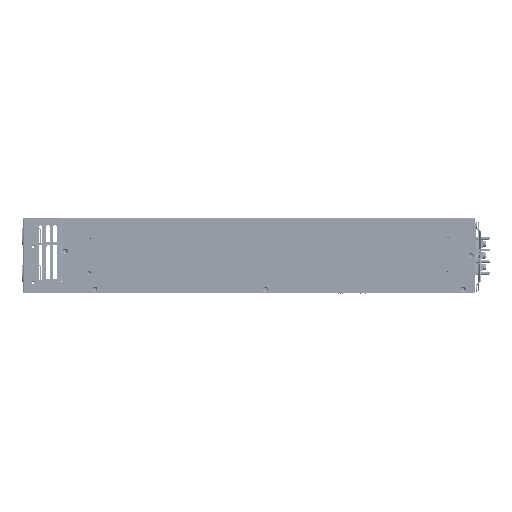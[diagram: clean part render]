
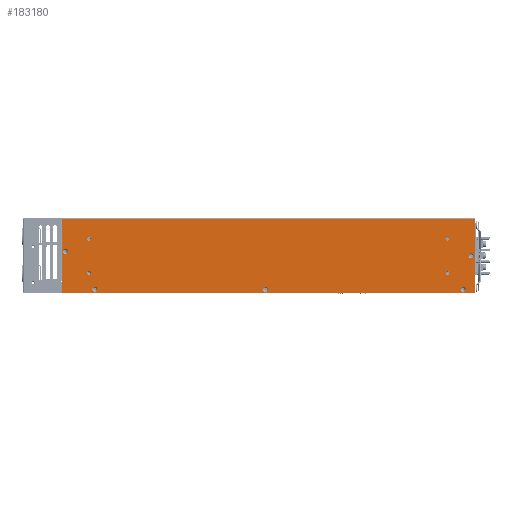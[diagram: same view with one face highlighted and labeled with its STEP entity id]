
A CAD part, front view. The second image highlights one B-rep face of the part: STEP entity #183180.
In plain terms, the highlighted planar face has unit normal (0, -1, 0).
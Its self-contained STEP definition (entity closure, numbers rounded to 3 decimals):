
#180650=CARTESIAN_POINT('',(-2155.796,-306.029,4.5));
#180660=VERTEX_POINT('',#180650);
#180690=CARTESIAN_POINT('',(-1697.296,-306.029,4.5));
#180700=DIRECTION('',(-1.,0.,0.));
#180710=VECTOR('',#180700,1.);
#180720=LINE('',#180690,#180710);
#180730=CARTESIAN_POINT('',(-1697.296,-306.029,4.5));
#180740=VERTEX_POINT('',#180730);
#180750=EDGE_CURVE('',#180740,#180660,#180720,.T.);
#181140=CARTESIAN_POINT('',(-2155.796,-306.029,86.9));
#181150=VERTEX_POINT('',#181140);
#181180=CARTESIAN_POINT('',(-2155.796,-306.029,0.));
#181190=DIRECTION('',(0.,0.,1.));
#181200=VECTOR('',#181190,1.);
#181210=LINE('',#181180,#181200);
#181220=EDGE_CURVE('',#180660,#181150,#181210,.T.);
#181510=CARTESIAN_POINT('',(-1726.896,-306.029,66.95));
#181520=DIRECTION('',(0.,-1.,0.));
#181530=DIRECTION('',(0.,0.,-1.));
#181540=AXIS2_PLACEMENT_3D('',#181510,#181520,#181530);
#181550=PLANE('',#181540);
#181560=CARTESIAN_POINT('',(-1929.296,-306.029,
9.));
#181570=DIRECTION('',(0.,1.,0.));
#181580=DIRECTION('',(1.,0.,0.));
#181590=AXIS2_PLACEMENT_3D('',#181560,#181570,#181580);
#181600=CIRCLE('',#181590,2.85);
#181610=CARTESIAN_POINT('',(-1926.446,-306.029,
9.));
#181620=VERTEX_POINT('',#181610);
#181630=CARTESIAN_POINT('',(-1932.146,-306.029,
9.));
#181640=VERTEX_POINT('',#181630);
#181650=EDGE_CURVE('',#181620,#181640,#181600,.T.);
#181660=ORIENTED_EDGE('',*,*,#181650,.T.);
#181670=EDGE_CURVE('',#181640,#181620,#181600,.T.);
#181680=ORIENTED_EDGE('',*,*,#181670,.T.);
#181690=EDGE_LOOP('',(#181680,#181660));
#181700=FACE_BOUND('',#181690,.T.);
#181710=CARTESIAN_POINT('',(-2152.503,-306.029,
51.32));
#181720=DIRECTION('',(0.,-1.,0.));
#181730=DIRECTION('',(-1.,0.,0.));
#181740=AXIS2_PLACEMENT_3D('',#181710,#181720,#181730);
#181750=CIRCLE('',#181740,3.);
#181760=CARTESIAN_POINT('',(-2149.503,-306.029,
51.32));
#181770=VERTEX_POINT('',#181760);
#181780=CARTESIAN_POINT('',(-2155.503,-306.029,
51.32));
#181790=VERTEX_POINT('',#181780);
#181800=EDGE_CURVE('',#181770,#181790,#181750,.T.);
#181810=ORIENTED_EDGE('',*,*,#181800,.F.);
#181820=EDGE_CURVE('',#181790,#181770,#181750,.T.);
#181830=ORIENTED_EDGE('',*,*,#181820,.F.);
#181840=EDGE_LOOP('',(#181830,#181810));
#181850=FACE_BOUND('',#181840,.T.);
#181860=CARTESIAN_POINT('',(-2119.546,-306.029,
9.));
#181870=DIRECTION('',(0.,1.,0.));
#181880=DIRECTION('',(1.,0.,0.));
#181890=AXIS2_PLACEMENT_3D('',#181860,#181870,#181880);
#181900=CIRCLE('',#181890,2.85);
#181910=CARTESIAN_POINT('',(-2122.396,-306.029,
9.));
#181920=VERTEX_POINT('',#181910);
#181930=CARTESIAN_POINT('',(-2116.696,-306.029,
9.));
#181940=VERTEX_POINT('',#181930);
#181950=EDGE_CURVE('',#181920,#181940,#181900,.T.);
#181960=ORIENTED_EDGE('',*,*,#181950,.T.);
#181970=EDGE_CURVE('',#181940,#181920,#181900,.T.);
#181980=ORIENTED_EDGE('',*,*,#181970,.T.);
#181990=EDGE_LOOP('',(#181980,#181960));
#182000=FACE_BOUND('',#181990,.T.);
#182010=CARTESIAN_POINT('',(-1700.296,-306.029,46.25));
#182020=DIRECTION('',(0.,1.,0.));
#182030=DIRECTION('',(1.,0.,0.));
#182040=AXIS2_PLACEMENT_3D('',#182010,#182020,#182030);
#182050=CIRCLE('',#182040,2.85);
#182060=CARTESIAN_POINT('',(-1703.146,-306.029,46.25));
#182070=VERTEX_POINT('',#182060);
#182080=CARTESIAN_POINT('',(-1697.446,-306.029,46.25));
#182090=VERTEX_POINT('',#182080);
#182100=EDGE_CURVE('',#182070,#182090,#182050,.T.);
#182110=ORIENTED_EDGE('',*,*,#182100,.T.);
#182120=EDGE_CURVE('',#182090,#182070,#182050,.T.);
#182130=ORIENTED_EDGE('',*,*,#182120,.T.);
#182140=EDGE_LOOP('',(#182130,#182110));
#182150=FACE_BOUND('',#182140,.T.);
#182160=CARTESIAN_POINT('',(-1709.296,-306.029,
9.));
#182170=DIRECTION('',(0.,1.,0.));
#182180=DIRECTION('',(1.,0.,0.));
#182190=AXIS2_PLACEMENT_3D('',#182160,#182170,#182180);
#182200=CIRCLE('',#182190,2.85);
#182210=CARTESIAN_POINT('',(-1712.146,-306.029,
9.));
#182220=VERTEX_POINT('',#182210);
#182230=CARTESIAN_POINT('',(-1706.446,-306.029,
9.));
#182240=VERTEX_POINT('',#182230);
#182250=EDGE_CURVE('',#182220,#182240,#182200,.T.);
#182260=ORIENTED_EDGE('',*,*,#182250,.T.);
#182270=EDGE_CURVE('',#182240,#182220,#182200,.T.);
#182280=ORIENTED_EDGE('',*,*,#182270,.T.);
#182290=EDGE_LOOP('',(#182280,#182260));
#182300=FACE_BOUND('',#182290,.T.);
#182310=CARTESIAN_POINT('',(-2125.896,-306.029,
65.3));
#182320=DIRECTION('',(0.,1.,0.));
#182330=DIRECTION('',(0.,0.,-1.));
#182340=AXIS2_PLACEMENT_3D('',#182310,#182320,#182330);
#182350=CIRCLE('',#182340,2.15);
#182360=CARTESIAN_POINT('',(-2125.896,-306.029,
67.45));
#182370=VERTEX_POINT('',#182360);
#182380=CARTESIAN_POINT('',(-2125.896,-306.029,
63.15));
#182390=VERTEX_POINT('',#182380);
#182400=EDGE_CURVE('',#182370,#182390,#182350,.T.);
#182410=ORIENTED_EDGE('',*,*,#182400,.T.);
#182420=EDGE_CURVE('',#182390,#182370,#182350,.T.);
#182430=ORIENTED_EDGE('',*,*,#182420,.T.);
#182440=EDGE_LOOP('',(#182430,#182410));
#182450=FACE_BOUND('',#182440,.T.);
#182460=CARTESIAN_POINT('',(-1726.896,-306.029,27.2));
#182470=DIRECTION('',(0.,1.,0.));
#182480=DIRECTION('',(0.,0.,-1.));
#182490=AXIS2_PLACEMENT_3D('',#182460,#182470,#182480);
#182500=CIRCLE('',#182490,2.15);
#182510=CARTESIAN_POINT('',(-1726.896,-306.029,29.35));
#182520=VERTEX_POINT('',#182510);
#182530=CARTESIAN_POINT('',(-1726.896,-306.029,25.05));
#182540=VERTEX_POINT('',#182530);
#182550=EDGE_CURVE('',#182520,#182540,#182500,.T.);
#182560=ORIENTED_EDGE('',*,*,#182550,.T.);
#182570=EDGE_CURVE('',#182540,#182520,#182500,.T.);
#182580=ORIENTED_EDGE('',*,*,#182570,.T.);
#182590=EDGE_LOOP('',(#182580,#182560));
#182600=FACE_BOUND('',#182590,.T.);
#182610=CARTESIAN_POINT('',(-1726.896,-306.029,65.3));
#182620=DIRECTION('',(0.,1.,0.));
#182630=DIRECTION('',(0.,0.,-1.));
#182640=AXIS2_PLACEMENT_3D('',#182610,#182620,#182630);
#182650=CIRCLE('',#182640,2.15);
#182660=CARTESIAN_POINT('',(-1726.896,-306.029,67.45));
#182670=VERTEX_POINT('',#182660);
#182680=CARTESIAN_POINT('',(-1726.896,-306.029,63.15));
#182690=VERTEX_POINT('',#182680);
#182700=EDGE_CURVE('',#182670,#182690,#182650,.T.);
#182710=ORIENTED_EDGE('',*,*,#182700,.T.);
#182720=EDGE_CURVE('',#182690,#182670,#182650,.T.);
#182730=ORIENTED_EDGE('',*,*,#182720,.T.);
#182740=EDGE_LOOP('',(#182730,#182710));
#182750=FACE_BOUND('',#182740,.T.);
#182760=CARTESIAN_POINT('',(-2125.896,-306.029,
27.2));
#182770=DIRECTION('',(0.,1.,0.));
#182780=DIRECTION('',(0.,0.,-1.));
#182790=AXIS2_PLACEMENT_3D('',#182760,#182770,#182780);
#182800=CIRCLE('',#182790,2.15);
#182810=CARTESIAN_POINT('',(-2125.896,-306.029,
29.35));
#182820=VERTEX_POINT('',#182810);
#182830=CARTESIAN_POINT('',(-2125.896,-306.029,
25.05));
#182840=VERTEX_POINT('',#182830);
#182850=EDGE_CURVE('',#182820,#182840,#182800,.T.);
#182860=ORIENTED_EDGE('',*,*,#182850,.T.);
#182870=EDGE_CURVE('',#182840,#182820,#182800,.T.);
#182880=ORIENTED_EDGE('',*,*,#182870,.T.);
#182890=EDGE_LOOP('',(#182880,#182860));
#182900=FACE_BOUND('',#182890,.T.);
#182910=CARTESIAN_POINT('',(-2198.796,-306.029,86.9));
#182920=DIRECTION('',(1.,0.,0.));
#182930=VECTOR('',#182920,1.);
#182940=LINE('',#182910,#182930);
#182950=CARTESIAN_POINT('',(-1695.796,-306.029,86.9));
#182960=VERTEX_POINT('',#182950);
#182970=EDGE_CURVE('',#181150,#182960,#182940,.T.);
#182980=ORIENTED_EDGE('',*,*,#182970,.F.);
#182990=CARTESIAN_POINT('',(-1695.796,-306.029,6.));
#183000=DIRECTION('',(0.,0.,1.));
#183010=VECTOR('',#183000,1.);
#183020=LINE('',#182990,#183010);
#183030=CARTESIAN_POINT('',(-1695.796,-306.029,6.));
#183040=VERTEX_POINT('',#183030);
#183050=EDGE_CURVE('',#183040,#182960,#183020,.T.);
#183060=ORIENTED_EDGE('',*,*,#183050,.T.);
#183070=CARTESIAN_POINT('',(-1697.296,-306.029,6.));
#183080=DIRECTION('',(0.,-1.,0.));
#183090=DIRECTION('',(0.,0.,-1.));
#183100=AXIS2_PLACEMENT_3D('',#183070,#183080,#183090);
#183110=CIRCLE('',#183100,1.5);
#183120=EDGE_CURVE('',#180740,#183040,#183110,.T.);
#183130=ORIENTED_EDGE('',*,*,#183120,.T.);
#183140=ORIENTED_EDGE('',*,*,#180750,.F.);
#183150=ORIENTED_EDGE('',*,*,#181220,.F.);
#183160=EDGE_LOOP('',(#183150,#183140,#183130,#183060,#182980));
#183170=FACE_OUTER_BOUND('',#183160,.T.);
#183180=ADVANCED_FACE('',(#181700,#181850,#182000,#182150,#182300,
#182450,#182600,#182750,#182900,#183170),#181550,.T.);
